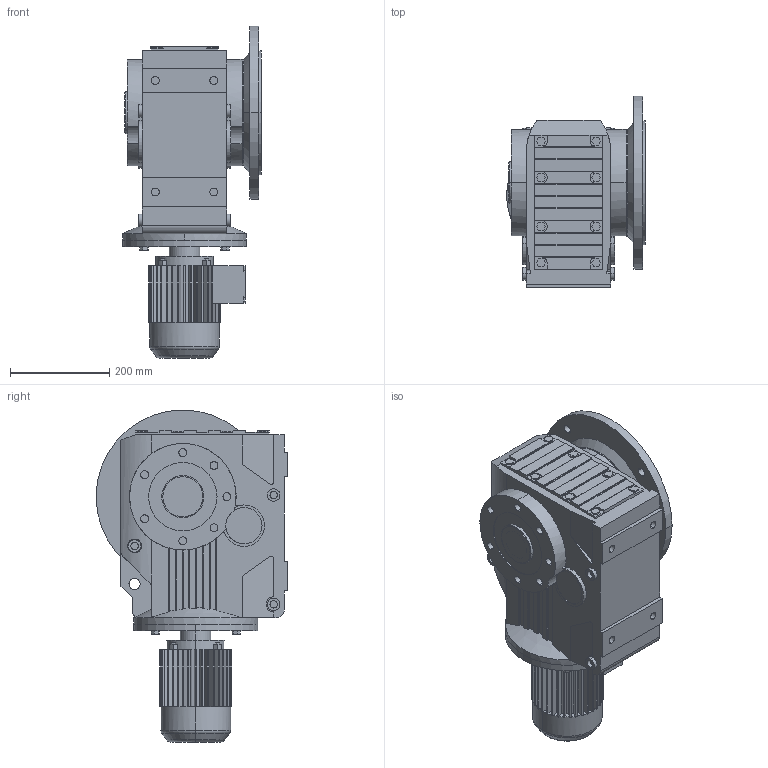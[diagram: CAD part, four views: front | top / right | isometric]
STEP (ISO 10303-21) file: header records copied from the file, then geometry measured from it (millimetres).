
FILE_DESCRIPTION(('Open CASCADE Model'),'2;1');
FILE_NAME('Open CASCADE Shape Model','2021-07-20T14:34:16',('Author'),( 'Open CASCADE'),'Open CASCADE STEP processor 6.3','Open CASCADE 6.3' ,'Unknown');
FILE_SCHEMA(('AUTOMOTIVE_DESIGN_CC2 { 1 2 10303 214 -1 1 5 4 }'));
Length unit declared in the file: millimetre
Products named in the file (5): 1_KAF87DT80-A; KA37‵107_87.step; 萇儂_250-DT80-238-302-145-122.step; す瑩諾陑粣K_87.step; 楊擘K_87.step
Assembly tree (4 placements, depth 2):
  1_KAF87DT80-A
    KA37‵107_87.step
    萇儂_250-DT80-238-302-145-122.step
    す瑩諾陑粣K_87.step
    楊擘K_87.step
Bounding box: 280 x 387 x 670 mm (x, y, z)
Volume: 27442077.6 mm3; surface area: 1318732.6 mm2
Topology: 4 solids, 4 shells, 862 faces, 2246 edges, 1463 vertices
Faces by surface type: plane 556, cylinder 294, cone 8, torus 4
Entity records: 64445 total; most frequent: CARTESIAN_POINT 22313, DIRECTION 7053, ORIENTED_EDGE 4492, PCURVE 4492, DEFINITIONAL_REPRESENTATION 4492, LINE 3627, VECTOR 3627, EDGE_CURVE 2246
